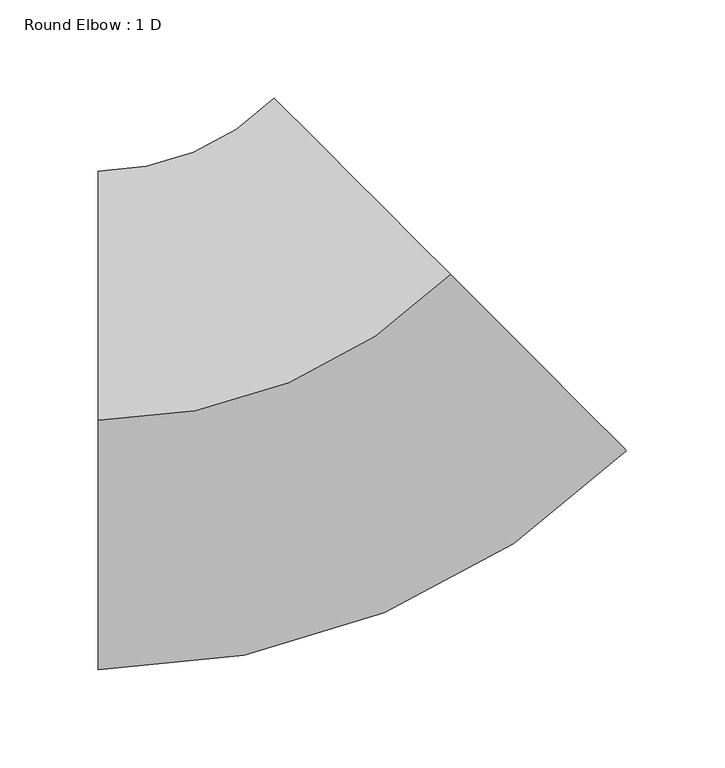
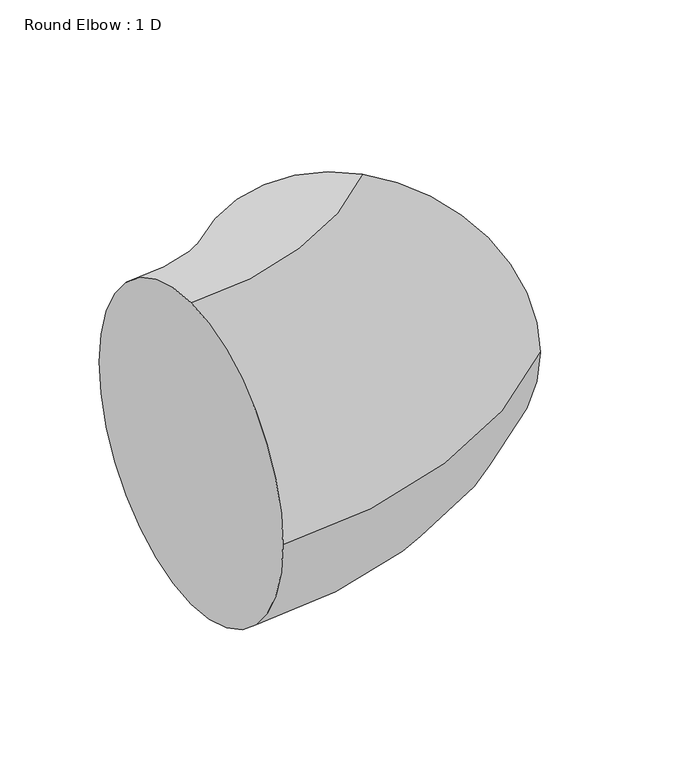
"""IFC4 building model written with IfcOpenShell, lengths in millimetres: duct fitting geometry, Round Elbow : 1 D."""

from ifc_helpers import new_model, si_unit, point, frame, origin, place, context, project, spatial, circle_curve, ellipse_curve, trimmed, source, transform, mapped, element, save
from ifc_brep_helpers import plane_surface, revolved_surface, advanced_brep


def round_elbow_1_d_ea3dccb8(model_context):
    return source(origin(), model_context, "Body", "AdvancedBrep", [
        advanced_brep(
        [(-105.2102448, 0.0, 127.0), (-105.2102448, 127.0, 0.0), (-105.2102448, 0.0, -127.0), (-105.2102448, -127.0, 0.0), (74.3948776, 74.3948776, 127.0), (164.1974388, -15.4076836, 0.0), (74.3948776, 74.3948776, -127.0), (-15.4076836, 164.1974388, 0.0)],
        [
            (0, 1, circle_curve(frame((-105.2102448, 0.0, 0.0), z_axis=(-1.0, 0.0, 0.0), x_axis=(0.0, 1.0, 0.0)), 127.0)),
            (1, 2, circle_curve(frame((-105.2102448, 0.0, 0.0), z_axis=(-1.0, 0.0, 0.0), x_axis=(0.0, 1.0, 0.0)), 127.0)),
            (2, 3, circle_curve(frame((-105.2102448, 0.0, 0.0), z_axis=(-1.0, 0.0, 0.0), x_axis=(0.0, 1.0, 0.0)), 127.0)),
            (3, 0, circle_curve(frame((-105.2102448, 0.0, 0.0), z_axis=(-1.0, 0.0, 0.0), x_axis=(0.0, 1.0, 0.0)), 127.0)),
            (4, 5, circle_curve(frame((74.3948776, 74.3948776, 0.0), z_axis=(0.707106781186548, 0.707106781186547, 0.0), x_axis=(-0.707106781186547, 0.707106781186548, 0.0)), 127.0)),
            (5, 6, circle_curve(frame((74.3948776, 74.3948776, 0.0), z_axis=(0.707106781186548, 0.707106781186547, 0.0), x_axis=(-0.707106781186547, 0.707106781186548, 0.0)), 127.0)),
            (6, 7, circle_curve(frame((74.3948776, 74.3948776, 0.0), z_axis=(0.707106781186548, 0.707106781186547, 0.0), x_axis=(-0.707106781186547, 0.707106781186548, 0.0)), 127.0)),
            (7, 4, circle_curve(frame((74.3948776, 74.3948776, 0.0), z_axis=(0.707106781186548, 0.707106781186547, 0.0), x_axis=(-0.707106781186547, 0.707106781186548, 0.0)), 127.0)),
            (7, 1, circle_curve(frame((-105.2102448, 254.0, 0.0), z_axis=(0.0, 0.0, -1.0), x_axis=(0.0, -1.0, 0.0)), 127.0)),
            (0, 4, circle_curve(frame((-105.2102448, 254.0, 127.0), z_axis=(0.0, 0.0, 1.0), x_axis=(0.0, -1.0, 0.0)), 254.0)),
            (6, 2, circle_curve(frame((-105.2102448, 254.0, -127.0), z_axis=(0.0, 0.0, -1.0), x_axis=(0.0, -1.0, 0.0)), 254.0)),
            (5, 3, circle_curve(frame((-105.2102448, 254.0, 0.0), z_axis=(0.0, 0.0, -1.0), x_axis=(0.0, -1.0, 0.0)), 381.0)),
        ],
        [
            plane_surface(frame((-105.2102448, 0.0, 0.0), z_axis=(-1.0, 0.0, 0.0), x_axis=(0.0, 0.0, 1.0))),
            plane_surface(frame((74.3948776, 74.3948776, 0.0), z_axis=(0.707106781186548, 0.7071067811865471, 0.0), x_axis=(0.0, 0.0, 1.0))),
            revolved_surface(trimmed(ellipse_curve(frame((-105.2102448, 0.0, 0.0), z_axis=(-1.0, 0.0, 0.0), x_axis=(0.0, 1.0, 0.0)), 127.0, 127.0), [point((-105.2102448, 0.0, 127.0))], [point((-105.2102448, 127.0, 0.0))], True, "CARTESIAN"), (-105.2102448, 254.0, 0.0), (0.0, 0.0, 1.0)),
            revolved_surface(trimmed(ellipse_curve(frame((-105.2102448, 0.0, 0.0), z_axis=(-1.0, 0.0, 0.0), x_axis=(0.0, 1.0, 0.0)), 127.0, 127.0), [point((-105.2102448, 127.0, 0.0))], [point((-105.2102448, 0.0, -127.0))], True, "CARTESIAN"), (-105.2102448, 254.0, 0.0), (0.0, 0.0, 1.0)),
            revolved_surface(trimmed(ellipse_curve(frame((-105.2102448, 0.0, 0.0), z_axis=(-1.0, 0.0, 0.0), x_axis=(0.0, 1.0, 0.0)), 127.0, 127.0), [point((-105.2102448, 0.0, -127.0))], [point((-105.2102448, -127.0, 0.0))], True, "CARTESIAN"), (-105.2102448, 254.0, 0.0), (0.0, 0.0, 1.0)),
            revolved_surface(trimmed(ellipse_curve(frame((-105.2102448, 0.0, 0.0), z_axis=(-1.0, 0.0, 0.0), x_axis=(0.0, 1.0, 0.0)), 127.0, 127.0), [point((-105.2102448, -127.0, 0.0))], [point((-105.2102448, 0.0, 127.0))], True, "CARTESIAN"), (-105.2102448, 254.0, 0.0), (0.0, 0.0, 1.0)),
        ],
        [
            (0, [[1, 2, 3, 4]]),
            (1, [[5, 6, 7, 8]]),
            (2, [[9, -1, 10, -8]]),
            (3, [[11, -2, -9, -7]]),
            (4, [[12, -3, -11, -6]]),
            (5, [[-10, -4, -12, -5]]),
        ],
    ),
    ])


if __name__ == "__main__":
    model = new_model("IFC4")
    model_context = context("Model", 3, world=origin())
    ifc_project = project(units=[si_unit("LENGTHUNIT", "METRE", prefix="MILLI")], contexts=[model_context])
    site = spatial("IfcSite", under=ifc_project)
    building = spatial("IfcBuilding", under=site)
    placement = place(None, origin())
    round_elbow_1_d_shape = round_elbow_1_d_ea3dccb8(model_context)
    element("IfcDuctFitting", 1, ObjectType="Round Elbow : 1 D", at=placement, inside=building, context=model_context, shape_type="MappedRepresentation", body=[
        mapped(round_elbow_1_d_shape, transform((0.0, 0.0, 0.0), x_axis=(1.0, 0.0, 0.0), y_axis=(0.0, 1.0, 0.0), z_axis=(0.0, 0.0, 1.0))),
    ])
    save(model, "model.ifc")
